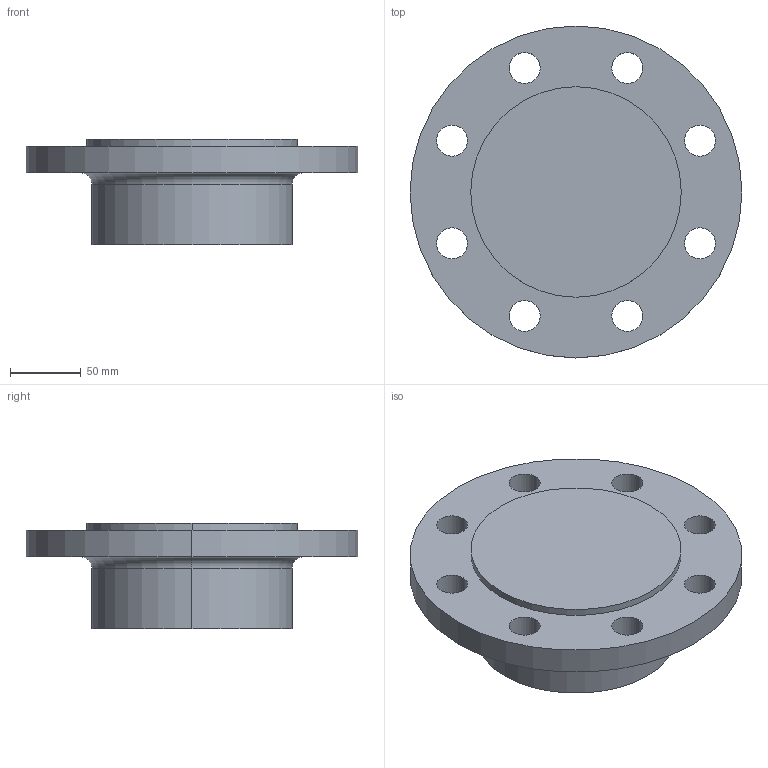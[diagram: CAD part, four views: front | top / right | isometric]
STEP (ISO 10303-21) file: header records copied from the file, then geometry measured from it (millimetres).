
FILE_DESCRIPTION (( 'STEP AP214' ), '1' );
FILE_NAME ('PN40 DN100 Type 21(i) - Type E Face.STEP', '2019-01-02T00:15:41', ( '' ), ( '' ), 'SwSTEP 2.0', 'SolidWorks 2019', '' );
FILE_SCHEMA (( 'AUTOMOTIVE_DESIGN' ));
Length unit declared in the file: millimetre
Products named in the file (1): PN40 DN100 Type 21(i) - Type E Face
Bounding box: 235 x 235 x 75 mm (x, y, z)
Volume: 1667458.1 mm3; surface area: 128786.4 mm2
Topology: 1 solids, 1 shells, 28 faces, 70 edges, 46 vertices
Faces by surface type: cylinder 22, plane 4, torus 2
Entity records: 932 total; most frequent: DIRECTION 176, CARTESIAN_POINT 145, ORIENTED_EDGE 140, AXIS2_PLACEMENT_3D 77, EDGE_CURVE 70, CIRCLE 48, VERTEX_POINT 46, EDGE_LOOP 46
